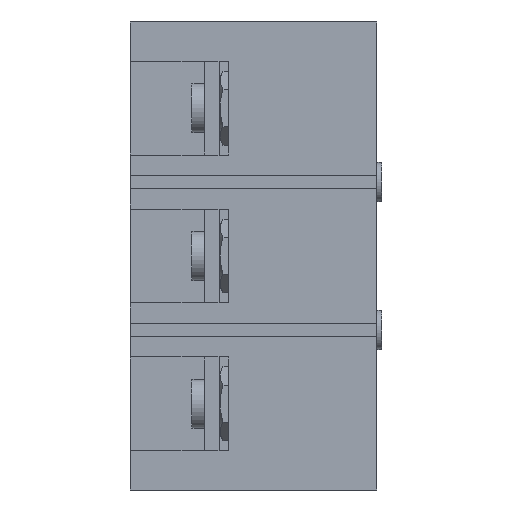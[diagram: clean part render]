
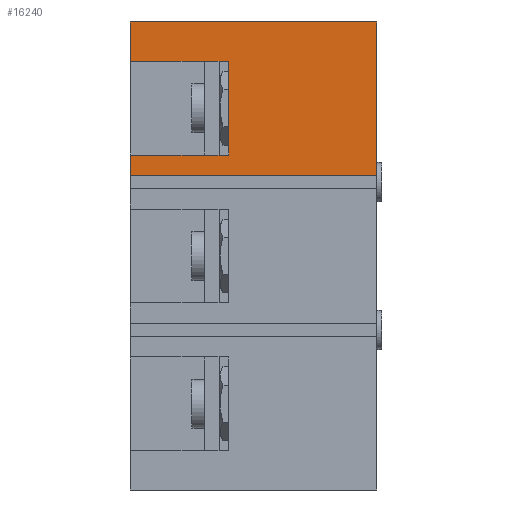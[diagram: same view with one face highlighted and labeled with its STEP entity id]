
A CAD part, left-side view. The second image highlights one B-rep face of the part: STEP entity #16240.
In plain terms, the highlighted planar face has unit normal (-1, 0, 0).
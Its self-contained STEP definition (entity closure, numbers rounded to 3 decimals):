
#12958=PLANE('',#34895);
#13488=FACE_OUTER_BOUND('',#20572,.T.);
#14036=LINE('',#45144,#15136);
#14037=LINE('',#45147,#15137);
#14038=LINE('',#45149,#15138);
#14039=LINE('',#45151,#15139);
#14040=LINE('',#45153,#15140);
#14041=LINE('',#45155,#15141);
#14042=LINE('',#45157,#15142);
#14043=LINE('',#45159,#15143);
#14044=LINE('',#45161,#15144);
#14045=LINE('',#45163,#15145);
#14046=LINE('',#45165,#15146);
#14047=LINE('',#45167,#15147);
#14048=LINE('',#45169,#15148);
#14049=LINE('',#45171,#15149);
#14050=LINE('',#45173,#15150);
#14051=LINE('',#45175,#15151);
#15136=VECTOR('',#37955,1.);
#15137=VECTOR('',#37956,1.);
#15138=VECTOR('',#37957,1.);
#15139=VECTOR('',#37958,1.);
#15140=VECTOR('',#37959,1.);
#15141=VECTOR('',#37960,1.);
#15142=VECTOR('',#37961,1.);
#15143=VECTOR('',#37962,1.);
#15144=VECTOR('',#37963,1.);
#15145=VECTOR('',#37964,1.);
#15146=VECTOR('',#37965,1.);
#15147=VECTOR('',#37966,1.);
#15148=VECTOR('',#37967,1.);
#15149=VECTOR('',#37968,1.);
#15150=VECTOR('',#37969,1.);
#15151=VECTOR('',#37970,1.);
#16240=ADVANCED_FACE('',(#13488),#12958,.F.);
#20572=EDGE_LOOP('',(#23414,#23415,#23416,#23417,#23418,#23419,#23420,#23421,
#23422,#23423,#23424,#23425,#23426,#23427,#23428,#23429));
#23414=ORIENTED_EDGE('',*,*,#30862,.F.);
#23415=ORIENTED_EDGE('',*,*,#30863,.T.);
#23416=ORIENTED_EDGE('',*,*,#30864,.F.);
#23417=ORIENTED_EDGE('',*,*,#30865,.F.);
#23418=ORIENTED_EDGE('',*,*,#30866,.T.);
#23419=ORIENTED_EDGE('',*,*,#30867,.F.);
#23420=ORIENTED_EDGE('',*,*,#30868,.F.);
#23421=ORIENTED_EDGE('',*,*,#30869,.F.);
#23422=ORIENTED_EDGE('',*,*,#30870,.F.);
#23423=ORIENTED_EDGE('',*,*,#30871,.F.);
#23424=ORIENTED_EDGE('',*,*,#30872,.T.);
#23425=ORIENTED_EDGE('',*,*,#30873,.F.);
#23426=ORIENTED_EDGE('',*,*,#30874,.F.);
#23427=ORIENTED_EDGE('',*,*,#30875,.T.);
#23428=ORIENTED_EDGE('',*,*,#30876,.T.);
#23429=ORIENTED_EDGE('',*,*,#30877,.F.);
#28734=VERTEX_POINT('',#45145);
#28735=VERTEX_POINT('',#45146);
#28736=VERTEX_POINT('',#45148);
#28737=VERTEX_POINT('',#45150);
#28738=VERTEX_POINT('',#45152);
#28739=VERTEX_POINT('',#45154);
#28740=VERTEX_POINT('',#45156);
#28741=VERTEX_POINT('',#45158);
#28742=VERTEX_POINT('',#45160);
#28743=VERTEX_POINT('',#45162);
#28744=VERTEX_POINT('',#45164);
#28745=VERTEX_POINT('',#45166);
#28746=VERTEX_POINT('',#45168);
#28747=VERTEX_POINT('',#45170);
#28748=VERTEX_POINT('',#45172);
#28749=VERTEX_POINT('',#45174);
#30862=EDGE_CURVE('',#28734,#28735,#14036,.T.);
#30863=EDGE_CURVE('',#28734,#28736,#14037,.T.);
#30864=EDGE_CURVE('',#28737,#28736,#14038,.T.);
#30865=EDGE_CURVE('',#28738,#28737,#14039,.T.);
#30866=EDGE_CURVE('',#28738,#28739,#14040,.T.);
#30867=EDGE_CURVE('',#28740,#28739,#14041,.T.);
#30868=EDGE_CURVE('',#28741,#28740,#14042,.T.);
#30869=EDGE_CURVE('',#28742,#28741,#14043,.T.);
#30870=EDGE_CURVE('',#28743,#28742,#14044,.T.);
#30871=EDGE_CURVE('',#28744,#28743,#14045,.T.);
#30872=EDGE_CURVE('',#28744,#28745,#14046,.T.);
#30873=EDGE_CURVE('',#28746,#28745,#14047,.T.);
#30874=EDGE_CURVE('',#28747,#28746,#14048,.T.);
#30875=EDGE_CURVE('',#28747,#28748,#14049,.T.);
#30876=EDGE_CURVE('',#28748,#28749,#14050,.T.);
#30877=EDGE_CURVE('',#28735,#28749,#14051,.T.);
#34895=AXIS2_PLACEMENT_3D('',#45176,#37971,#37972);
#37955=DIRECTION('',(0.,0.,-1.));
#37956=DIRECTION('',(0.,1.,0.));
#37957=DIRECTION('',(0.,0.,1.));
#37958=DIRECTION('',(0.,1.,0.));
#37959=DIRECTION('',(0.,0.,1.));
#37960=DIRECTION('',(0.,-1.,0.));
#37961=DIRECTION('',(0.,0.,1.));
#37962=DIRECTION('',(0.,1.,0.));
#37963=DIRECTION('',(0.,0.,-1.));
#37964=DIRECTION('',(0.,1.,0.));
#37965=DIRECTION('',(0.,0.,-1.));
#37966=DIRECTION('',(0.,1.,0.));
#37967=DIRECTION('',(0.,0.,1.));
#37968=DIRECTION('',(0.,1.,0.));
#37969=DIRECTION('',(0.,0.,-1.));
#37970=DIRECTION('',(0.,-1.,0.));
#37971=DIRECTION('',(1.,0.,0.));
#37972=DIRECTION('',(0.,0.,-1.));
#45144=CARTESIAN_POINT('',(-85.75,35.,47.5));
#45145=CARTESIAN_POINT('',(-85.75,35.,20.5));
#45146=CARTESIAN_POINT('',(-85.75,35.,20.499));
#45147=CARTESIAN_POINT('',(-85.75,30.,20.5));
#45148=CARTESIAN_POINT('',(-85.75,50.,20.5));
#45149=CARTESIAN_POINT('',(-85.75,50.,47.5));
#45150=CARTESIAN_POINT('',(-85.75,50.,16.25));
#45151=CARTESIAN_POINT('',(-85.75,0.,16.25));
#45152=CARTESIAN_POINT('',(-85.75,0.,16.25));
#45153=CARTESIAN_POINT('',(-85.75,0.,47.5));
#45154=CARTESIAN_POINT('',(-85.75,0.,47.5));
#45155=CARTESIAN_POINT('',(-85.75,50.,47.5));
#45156=CARTESIAN_POINT('',(-85.75,50.,47.5));
#45157=CARTESIAN_POINT('',(-85.75,50.,47.5));
#45158=CARTESIAN_POINT('',(-85.75,50.,39.5));
#45159=CARTESIAN_POINT('',(-85.75,30.,39.5));
#45160=CARTESIAN_POINT('',(-85.75,35.,39.5));
#45161=CARTESIAN_POINT('',(-85.75,35.,47.5));
#45162=CARTESIAN_POINT('',(-85.75,35.,39.501));
#45163=CARTESIAN_POINT('',(-85.75,50.,39.501));
#45164=CARTESIAN_POINT('',(-85.75,32.,39.501));
#45165=CARTESIAN_POINT('',(-85.75,32.,47.5));
#45166=CARTESIAN_POINT('',(-85.75,32.,39.5));
#45167=CARTESIAN_POINT('',(-85.75,30.,39.5));
#45168=CARTESIAN_POINT('',(-85.75,30.,39.5));
#45169=CARTESIAN_POINT('',(-85.75,30.,39.5));
#45170=CARTESIAN_POINT('',(-85.75,30.,20.5));
#45171=CARTESIAN_POINT('',(-85.75,30.,20.5));
#45172=CARTESIAN_POINT('',(-85.75,32.,20.5));
#45173=CARTESIAN_POINT('',(-85.75,32.,47.5));
#45174=CARTESIAN_POINT('',(-85.75,32.,20.499));
#45175=CARTESIAN_POINT('',(-85.75,50.,20.499));
#45176=CARTESIAN_POINT('',(-85.75,50.,47.5));
